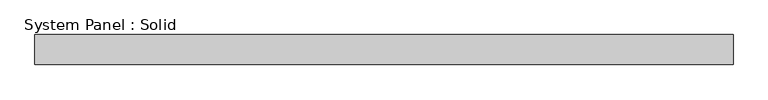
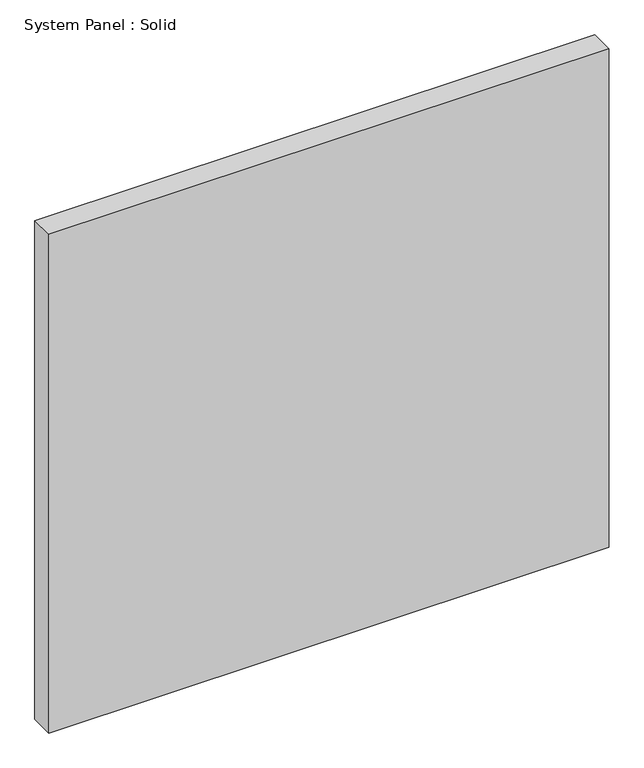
"""IFC4 building model written with IfcOpenShell, lengths in millimetres: plate geometry, System Panel : Solid."""

from ifc_helpers import new_model, si_unit, origin, origin_with_axes, place, context, project, spatial, polyline, outline, extrude, source, transform, mapped, element, save


def system_panel_solid_59448bce(model_context):
    return source(origin(), model_context, "Body", "SweptSolid", [
        extrude(outline(polyline([(696.2366102, -49.5), (-696.2366102, -49.5), (-696.2366102, 10.5), (696.2366102, 10.5), (696.2366102, -49.5)])), origin_with_axes(), (0.0, 0.0, 1.0), 1310.0),
    ])


if __name__ == "__main__":
    model = new_model("IFC4")
    model_context = context("Model", 3, world=origin())
    ifc_project = project(units=[si_unit("LENGTHUNIT", "METRE", prefix="MILLI")], contexts=[model_context])
    site = spatial("IfcSite", under=ifc_project)
    building = spatial("IfcBuilding", under=site)
    placement = place(None, origin())
    system_panel_solid_shape = system_panel_solid_59448bce(model_context)
    element("IfcPlate", 1, ObjectType="System Panel : Solid", at=placement, inside=building, context=model_context, shape_type="MappedRepresentation", body=[
        mapped(system_panel_solid_shape, transform((0.0, 0.0, 0.0), x_axis=(1.0, 0.0, 0.0), y_axis=(0.0, 1.0, 0.0), z_axis=(0.0, 0.0, 1.0))),
    ])
    save(model, "model.ifc")
